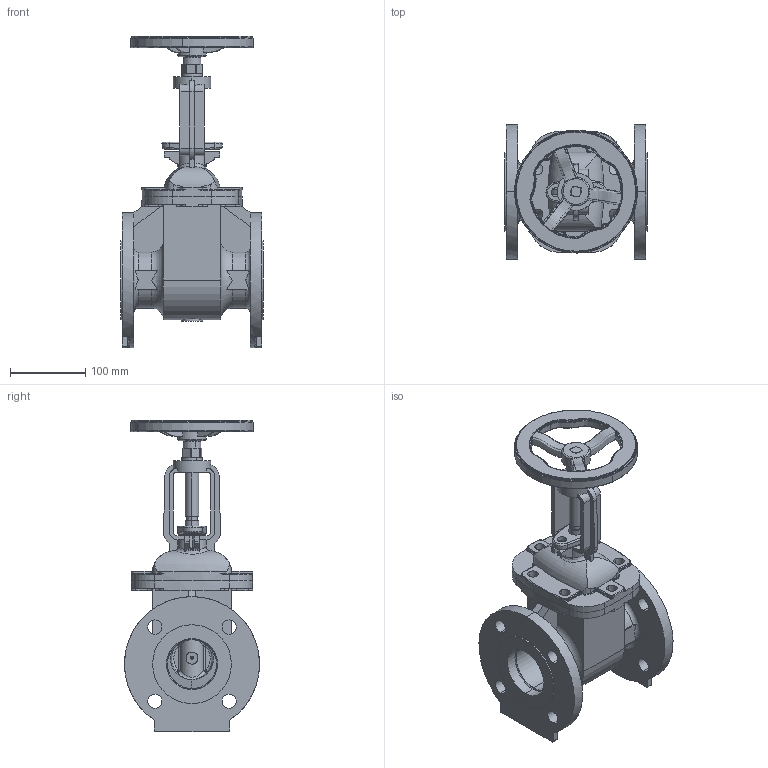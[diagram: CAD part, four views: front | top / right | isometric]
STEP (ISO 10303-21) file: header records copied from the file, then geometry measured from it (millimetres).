
FILE_DESCRIPTION(('Open CASCADE Model'),'2;1');
FILE_NAME('Open CASCADE Shape Model','2022-03-10T09:05:32',('Author'),( 'Open CASCADE'),'Open CASCADE STEP processor 7.3','Open CASCADE 7.3' ,'Unknown');
FILE_SCHEMA(('AUTOMOTIVE_DESIGN { 1 0 10303 214 1 1 1 1 }'));
Length unit declared in the file: millimetre
Products named in the file (8): Open CASCADE STEP translator 7.3 1; Open CASCADE STEP translator 7.3 1.1; Open CASCADE STEP translator 7.3 1.2; Open CASCADE STEP translator 7.3 1.3; Open CASCADE STEP translator 7.3 1.4; Open CASCADE STEP translator 7.3 1.5; Open CASCADE STEP translator 7.3 1.6; Open CASCADE STEP translator 7.3 1.7
Assembly tree (7 placements, depth 2):
  Open CASCADE STEP translator 7.3 1
    Open CASCADE STEP translator 7.3 1.1
    Open CASCADE STEP translator 7.3 1.2
    Open CASCADE STEP translator 7.3 1.3
    Open CASCADE STEP translator 7.3 1.4
    Open CASCADE STEP translator 7.3 1.5
    Open CASCADE STEP translator 7.3 1.6
    Open CASCADE STEP translator 7.3 1.7
Bounding box: 190 x 179.93 x 415 mm (x, y, z)
Volume: 1882788.5 mm3; surface area: 497766.6 mm2
Topology: 7 solids, 7 shells, 775 faces, 2045 edges, 1297 vertices
Faces by surface type: cylinder 285, plane 242, torus 88, bspline 82, cone 44, sphere 18, revolution 16
Entity records: 124835 total; most frequent: CARTESIAN_POINT 86181, DIRECTION 6704, ORIENTED_EDGE 4078, PCURVE 4078, DEFINITIONAL_REPRESENTATION 4078, LINE 3324, VECTOR 3324, EDGE_CURVE 2039
